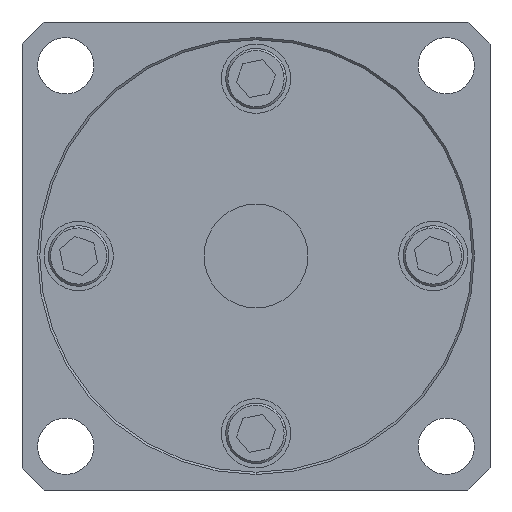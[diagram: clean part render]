
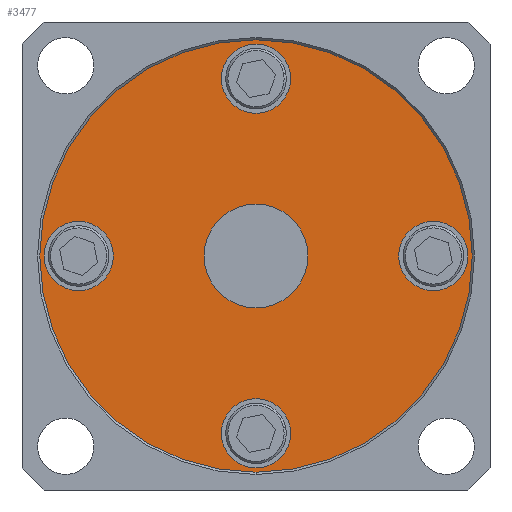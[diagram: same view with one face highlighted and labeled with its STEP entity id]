
A CAD part, front view. The second image highlights one B-rep face of the part: STEP entity #3477.
In plain terms, the highlighted planar face has unit normal (0, -1, 0).
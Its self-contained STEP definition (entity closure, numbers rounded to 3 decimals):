
#2937=CARTESIAN_POINT('',(20.5,0.,0.));
#2938=DIRECTION('',(0.,1.,0.));
#2939=DIRECTION('',(0.,0.,-1.));
#2940=AXIS2_PLACEMENT_3D('',#2937,#2938,#2939);
#2945=CARTESIAN_POINT('',(20.5,0.,0.));
#2946=DIRECTION('',(0.,1.,0.));
#2947=DIRECTION('',(0.,0.,1.));
#2948=AXIS2_PLACEMENT_3D('',#2945,#2946,#2947);
#2953=CARTESIAN_POINT('',(0.,0.,-20.5));
#2954=DIRECTION('',(0.,1.,0.));
#2955=DIRECTION('',(0.,0.,-1.));
#2956=AXIS2_PLACEMENT_3D('',#2953,#2954,#2955);
#2961=CARTESIAN_POINT('',(0.,0.,-20.5));
#2962=DIRECTION('',(0.,1.,0.));
#2963=DIRECTION('',(0.,0.,1.));
#2964=AXIS2_PLACEMENT_3D('',#2961,#2962,#2963);
#2969=CARTESIAN_POINT('',(-20.5,0.,0.));
#2970=DIRECTION('',(0.,1.,0.));
#2971=DIRECTION('',(0.,0.,-1.));
#2972=AXIS2_PLACEMENT_3D('',#2969,#2970,#2971);
#2977=CARTESIAN_POINT('',(-20.5,0.,0.));
#2978=DIRECTION('',(0.,1.,0.));
#2979=DIRECTION('',(0.,0.,1.));
#2980=AXIS2_PLACEMENT_3D('',#2977,#2978,#2979);
#2985=CARTESIAN_POINT('',(0.,0.,20.5));
#2986=DIRECTION('',(0.,1.,0.));
#2987=DIRECTION('',(0.,0.,-1.));
#2988=AXIS2_PLACEMENT_3D('',#2985,#2986,#2987);
#2993=CARTESIAN_POINT('',(0.,0.,20.5));
#2994=DIRECTION('',(0.,1.,0.));
#2995=DIRECTION('',(0.,0.,1.));
#2996=AXIS2_PLACEMENT_3D('',#2993,#2994,#2995);
#3001=CARTESIAN_POINT('',(0.,0.,0.));
#3002=DIRECTION('',(0.,-1.,0.));
#3003=DIRECTION('',(0.,0.,-1.));
#3004=AXIS2_PLACEMENT_3D('',#3001,#3002,#3003);
#3009=CARTESIAN_POINT('',(0.,0.,0.));
#3010=DIRECTION('',(0.,-1.,0.));
#3011=DIRECTION('',(0.,0.,1.));
#3012=AXIS2_PLACEMENT_3D('',#3009,#3010,#3011);
#3017=CARTESIAN_POINT('',(0.,0.,0.));
#3018=DIRECTION('',(0.,1.,0.));
#3019=DIRECTION('',(0.,0.,-1.));
#3020=AXIS2_PLACEMENT_3D('',#3017,#3018,#3019);
#3025=CARTESIAN_POINT('',(0.,0.,0.));
#3026=DIRECTION('',(0.,1.,0.));
#3027=DIRECTION('',(0.,0.,1.));
#3028=AXIS2_PLACEMENT_3D('',#3025,#3026,#3027);
#3289=CARTESIAN_POINT('',(20.5,0.,-4.));
#3290=VERTEX_POINT('',#3289);
#3291=CARTESIAN_POINT('',(20.5,0.,4.));
#3292=VERTEX_POINT('',#3291);
#3305=CARTESIAN_POINT('',(0.,0.,-24.5));
#3306=VERTEX_POINT('',#3305);
#3307=CARTESIAN_POINT('',(0.,0.,-16.5));
#3308=VERTEX_POINT('',#3307);
#3325=CARTESIAN_POINT('',(-20.5,0.,-4.));
#3326=VERTEX_POINT('',#3325);
#3327=CARTESIAN_POINT('',(-20.5,0.,4.));
#3328=VERTEX_POINT('',#3327);
#3341=CARTESIAN_POINT('',(0.,0.,-25.));
#3342=VERTEX_POINT('',#3341);
#3343=CARTESIAN_POINT('',(0.,0.,6.));
#3344=VERTEX_POINT('',#3343);
#3345=CARTESIAN_POINT('',(0.,0.,-6.));
#3346=VERTEX_POINT('',#3345);
#3347=CARTESIAN_POINT('',(0.,0.,16.5));
#3348=VERTEX_POINT('',#3347);
#3349=CARTESIAN_POINT('',(0.,0.,24.5));
#3350=VERTEX_POINT('',#3349);
#3351=CARTESIAN_POINT('',(0.,0.,25.));
#3352=VERTEX_POINT('',#3351);
#3438=CARTESIAN_POINT('',(0.,0.,0.));
#3439=DIRECTION('',(0.,1.,0.));
#3440=DIRECTION('',(0.,0.,-1.));
#3441=AXIS2_PLACEMENT_3D('',#3438,#3439,#3440);
#3442=PLANE('',#3441);
#3444=ORIENTED_EDGE('',*,*,#3443,.F.);
#3446=ORIENTED_EDGE('',*,*,#3445,.F.);
#3447=EDGE_LOOP('',(#3444,#3446));
#3448=FACE_OUTER_BOUND('',#3447,.F.);
#3450=ORIENTED_EDGE('',*,*,#3449,.F.);
#3452=ORIENTED_EDGE('',*,*,#3451,.F.);
#3453=EDGE_LOOP('',(#3450,#3452));
#3454=FACE_BOUND('',#3453,.F.);
#3456=ORIENTED_EDGE('',*,*,#3455,.F.);
#3458=ORIENTED_EDGE('',*,*,#3457,.F.);
#3459=EDGE_LOOP('',(#3456,#3458));
#3460=FACE_BOUND('',#3459,.F.);
#3462=ORIENTED_EDGE('',*,*,#3461,.F.);
#3464=ORIENTED_EDGE('',*,*,#3463,.F.);
#3465=EDGE_LOOP('',(#3462,#3464));
#3466=FACE_BOUND('',#3465,.F.);
#3468=ORIENTED_EDGE('',*,*,#3467,.F.);
#3470=ORIENTED_EDGE('',*,*,#3469,.F.);
#3471=EDGE_LOOP('',(#3468,#3470));
#3472=FACE_BOUND('',#3471,.F.);
#3473=ORIENTED_EDGE('',*,*,#3420,.F.);
#3474=ORIENTED_EDGE('',*,*,#3430,.F.);
#3475=EDGE_LOOP('',(#3473,#3474));
#3476=FACE_BOUND('',#3475,.F.);
#2941=CIRCLE('',#2940,4.);
#2949=CIRCLE('',#2948,4.);
#2957=CIRCLE('',#2956,4.);
#2965=CIRCLE('',#2964,4.);
#2973=CIRCLE('',#2972,4.);
#2981=CIRCLE('',#2980,4.);
#2989=CIRCLE('',#2988,4.);
#2997=CIRCLE('',#2996,4.);
#3005=CIRCLE('',#3004,25.);
#3013=CIRCLE('',#3012,25.);
#3021=CIRCLE('',#3020,6.);
#3029=CIRCLE('',#3028,6.);
#3420=EDGE_CURVE('',#3346,#3344,#3021,.T.);
#3430=EDGE_CURVE('',#3344,#3346,#3029,.T.);
#3443=EDGE_CURVE('',#3342,#3352,#3005,.T.);
#3445=EDGE_CURVE('',#3352,#3342,#3013,.T.);
#3449=EDGE_CURVE('',#3306,#3308,#2957,.T.);
#3451=EDGE_CURVE('',#3308,#3306,#2965,.T.);
#3455=EDGE_CURVE('',#3326,#3328,#2973,.T.);
#3457=EDGE_CURVE('',#3328,#3326,#2981,.T.);
#3461=EDGE_CURVE('',#3348,#3350,#2989,.T.);
#3463=EDGE_CURVE('',#3350,#3348,#2997,.T.);
#3467=EDGE_CURVE('',#3290,#3292,#2941,.T.);
#3469=EDGE_CURVE('',#3292,#3290,#2949,.T.);
#3477=ADVANCED_FACE('',(#3448,#3454,#3460,#3466,#3472,#3476),#3442,.F.);
